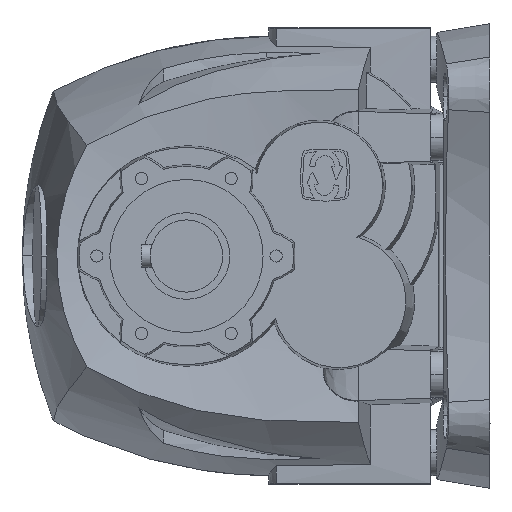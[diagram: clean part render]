
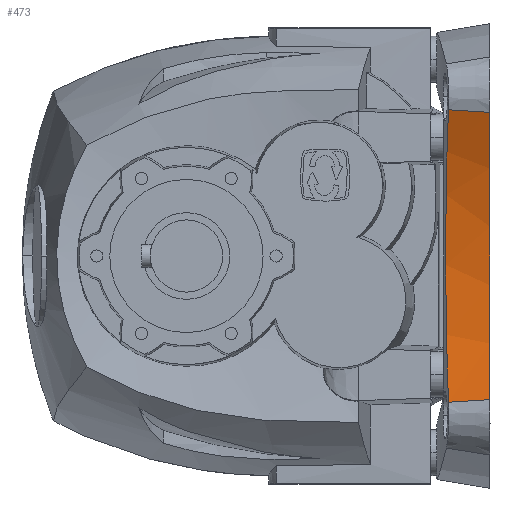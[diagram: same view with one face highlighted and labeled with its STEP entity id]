
A CAD part, left-side view. The second image highlights one B-rep face of the part: STEP entity #473.
In plain terms, the highlighted conical face has half-angle 10 degrees and reference radius 142.72 mm.
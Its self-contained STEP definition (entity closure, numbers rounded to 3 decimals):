
#70 = ORIENTED_EDGE ( 'NONE', *, *, #24423, .F. ) ;
#71 = ORIENTED_EDGE ( 'NONE', *, *, #24395, .T. ) ;
#72 = ORIENTED_EDGE ( 'NONE', *, *, #24422, .F. ) ;
#73 = ORIENTED_EDGE ( 'NONE', *, *, #24421, .F. ) ;
#473 = ADVANCED_FACE ( 'NONE', ( #21962 ), #21972, .F. ) ;
#9408 = CARTESIAN_POINT ( 'NONE',  ( -83.655, -90.629, -50.577 ) ) ;
#9570 = CARTESIAN_POINT ( 'NONE',  ( -86.024, -105., 49.677 ) ) ;
#9577 = CARTESIAN_POINT ( 'NONE',  ( -86.024, -105., -49.677 ) ) ;
#9585 = CARTESIAN_POINT ( 'NONE',  ( -83.655, -90.629, 50.577 ) ) ;
#11876 = DIRECTION ( 'NONE',  ( -1., 0., 0. ) ) ;
#11918 = CARTESIAN_POINT ( 'NONE',  ( -216.914, -89.576, 0. ) ) ;
#11920 = DIRECTION ( 'NONE',  ( 0., 1., 0. ) ) ;
#14815 = CIRCLE ( 'NONE', #16095, 140. ) ;
#15718 = CARTESIAN_POINT ( 'NONE',  ( -216.914, -105., 0. ) ) ;
#15719 = DIRECTION ( 'NONE',  ( 0., -1., 0. ) ) ;
#15720 = DIRECTION ( 'NONE',  ( -1., 0., 0. ) ) ;
#15903 = CARTESIAN_POINT ( 'NONE',  ( -82.084, -90.459, -46.523 ) ) ;
#15904 = CARTESIAN_POINT ( 'NONE',  ( -83.655, -90.629, -50.577 ) ) ;
#15910 = CARTESIAN_POINT ( 'NONE',  ( -83.655, -90.629, -50.577 ) ) ;
#15912 = CARTESIAN_POINT ( 'NONE',  ( -86.024, -105., -49.677 ) ) ;
#15914 = CARTESIAN_POINT ( 'NONE',  ( -80.715, -90.315, -42.427 ) ) ;
#15916 = CARTESIAN_POINT ( 'NONE',  ( -78.365, -90.074, -34.155 ) ) ;
#15918 = CARTESIAN_POINT ( 'NONE',  ( -77.384, -89.976, -29.979 ) ) ;
#15920 = CARTESIAN_POINT ( 'NONE',  ( -75.809, -89.821, -21.547 ) ) ;
#15921 = CARTESIAN_POINT ( 'NONE',  ( -75.213, -89.764, -17.291 ) ) ;
#15922 = CARTESIAN_POINT ( 'NONE',  ( -74.614, -89.706, -10.847 ) ) ;
#15923 = CARTESIAN_POINT ( 'NONE',  ( -74.463, -89.692, -8.689 ) ) ;
#15924 = CARTESIAN_POINT ( 'NONE',  ( -74.311, -89.677, -5.436 ) ) ;
#15925 = CARTESIAN_POINT ( 'NONE',  ( -74.273, -89.674, -4.348 ) ) ;
#15926 = CARTESIAN_POINT ( 'NONE',  ( -74.223, -89.669, -2.177 ) ) ;
#15927 = CARTESIAN_POINT ( 'NONE',  ( -74.21, -89.668, -1.094 ) ) ;
#15928 = CARTESIAN_POINT ( 'NONE',  ( -74.21, -89.668, 4.317 ) ) ;
#15929 = CARTESIAN_POINT ( 'NONE',  ( -74.409, -89.687, 8.618 ) ) ;
#15930 = CARTESIAN_POINT ( 'NONE',  ( -75.198, -89.762, 17.167 ) ) ;
#15932 = CARTESIAN_POINT ( 'NONE',  ( -75.788, -89.819, 21.415 ) ) ;
#15934 = CARTESIAN_POINT ( 'NONE',  ( -77.358, -89.974, 29.858 ) ) ;
#15935 = CARTESIAN_POINT ( 'NONE',  ( -78.338, -90.071, 34.053 ) ) ;
#15936 = CARTESIAN_POINT ( 'NONE',  ( -80.111, -90.253, 40.304 ) ) ;
#15937 = CARTESIAN_POINT ( 'NONE',  ( -80.753, -90.32, 42.384 ) ) ;
#15938 = CARTESIAN_POINT ( 'NONE',  ( -82.132, -90.465, 46.506 ) ) ;
#15940 = CARTESIAN_POINT ( 'NONE',  ( -82.869, -90.544, 48.55 ) ) ;
#15941 = CARTESIAN_POINT ( 'NONE',  ( -83.655, -90.629, 50.577 ) ) ;
#15943 = CARTESIAN_POINT ( 'NONE',  ( -86.024, -105., 49.677 ) ) ;
#15944 = CARTESIAN_POINT ( 'NONE',  ( -83.655, -90.629, 50.577 ) ) ;
#16095 = AXIS2_PLACEMENT_3D ( 'NONE', #15718, #15719, #15720 ) ;
#17894 = EDGE_LOOP ( 'NONE', ( #73, #72, #71, #70 ) ) ;
#19143 = VERTEX_POINT ( 'NONE', #9408 ) ;
#19285 = VERTEX_POINT ( 'NONE', #9570 ) ;
#19292 = VERTEX_POINT ( 'NONE', #9577 ) ;
#19300 = VERTEX_POINT ( 'NONE', #9585 ) ;
#21281 = AXIS2_PLACEMENT_3D ( 'NONE', #11918, #11920, #11876 ) ;
#21962 = FACE_OUTER_BOUND ( 'NONE', #17894, .T. ) ;
#21972 = CONICAL_SURFACE ( 'NONE', #21281, 142.72, 0.175 ) ;
#23432 = B_SPLINE_CURVE_WITH_KNOTS ( 'NONE', 3,
 ( #15904, #15903, #15914, #15916, #15918, #15920, #15921, #15922, #15923, #15924, #15925, #15926, #15927, #15928, #15929, #15930, #15932, #15934, #15935, #15936, #15937, #15938, #15940, #15941 ),
 .UNSPECIFIED., .F., .F.,
 ( 4, 2, 2, 2, 2, 2, 2, 2, 2, 2, 2, 4 ),
 ( 0., 0.013, 0.026, 0.039, 0.045, 0.048, 0.051, 0.064, 0.077, 0.09, 0.097, 0.103 ),
 .UNSPECIFIED. ) ;
#23433 = B_SPLINE_CURVE_WITH_KNOTS ( 'NONE', 1,
 ( #15912, #15910 ),
 .UNSPECIFIED., .F., .F.,
 ( 2, 2 ),
 ( 0., 1. ),
 .UNSPECIFIED. ) ;
#23434 = B_SPLINE_CURVE_WITH_KNOTS ( 'NONE', 1,
 ( #15944, #15943 ),
 .UNSPECIFIED., .F., .F.,
 ( 2, 2 ),
 ( 0., 1. ),
 .UNSPECIFIED. ) ;
#24395 = EDGE_CURVE ( 'NONE', #19292, #19285, #14815, .T. ) ;
#24421 = EDGE_CURVE ( 'NONE', #19143, #19300, #23432, .T. ) ;
#24422 = EDGE_CURVE ( 'NONE', #19292, #19143, #23433, .T. ) ;
#24423 = EDGE_CURVE ( 'NONE', #19300, #19285, #23434, .T. ) ;
